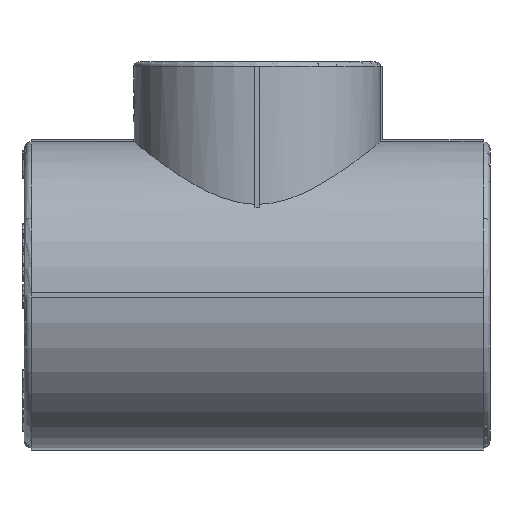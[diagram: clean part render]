
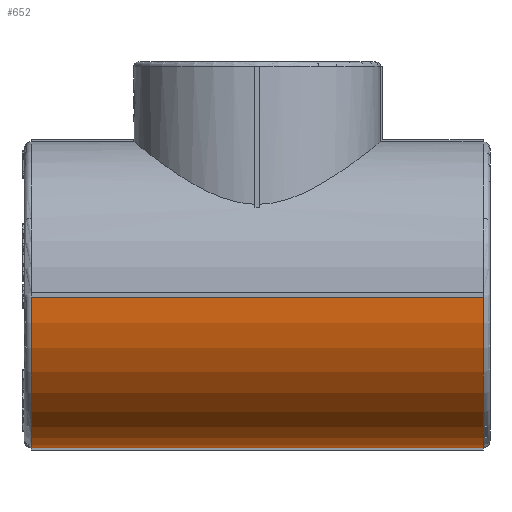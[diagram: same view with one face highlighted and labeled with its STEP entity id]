
A CAD part, left-side view. The second image highlights one B-rep face of the part: STEP entity #652.
In plain terms, the highlighted cylindrical face has radius 33.5 mm (diameter 67 mm), a partial arc.
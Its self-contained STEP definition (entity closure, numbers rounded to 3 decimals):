
#652=ADVANCED_FACE('',(#5077),#5079,.T.);
#5077=FACE_BOUND('',#5078,.T.);
#5078=EDGE_LOOP('',(#12898,#12899,#12900,#12901));
#5079=CYLINDRICAL_SURFACE('',#5080,33.5);
#5080=AXIS2_PLACEMENT_3D('',#5081,#5082,#5083);
#5081=CARTESIAN_POINT('',(0.,-51.,0.));
#5082=DIRECTION('',(0.,1.,0.));
#5083=DIRECTION('',(-1.,0.,0.));
#12898=ORIENTED_EDGE('',*,*,#18309,.F.);
#12899=ORIENTED_EDGE('',*,*,#18310,.T.);
#12900=ORIENTED_EDGE('',*,*,#18311,.F.);
#12901=ORIENTED_EDGE('',*,*,#18272,.F.);
#18272=EDGE_CURVE('',#22492,#22494,#22495,.T.);
#18309=EDGE_CURVE('',#22561,#22492,#22562,.T.);
#18310=EDGE_CURVE('',#22561,#22563,#22564,.T.);
#18311=EDGE_CURVE('',#22494,#22563,#22565,.F.);
#22492=VERTEX_POINT('',#31013);
#22494=VERTEX_POINT('',#31018);
#22495=CIRCLE('',#31019,33.5);
#22561=VERTEX_POINT('',#31437);
#22562=LINE('',#31438,#31439);
#22563=VERTEX_POINT('',#31441);
#22564=CIRCLE('',#31442,33.5);
#22565=LINE('',#31446,#31447);
#31013=CARTESIAN_POINT('',(-0.5,49.5,-33.496));
#31018=CARTESIAN_POINT('',(-33.496,49.5,-0.5));
#31019=AXIS2_PLACEMENT_3D('',#31020,#31021,#31022);
#31020=CARTESIAN_POINT('',(0.,49.5,0.));
#31021=DIRECTION('',(0.,1.,0.));
#31022=DIRECTION('',(-0.015,0.,-1.));
#31437=CARTESIAN_POINT('',(-0.5,-49.5,-33.496));
#31438=CARTESIAN_POINT('',(-0.5,-49.5,-33.496));
#31439=VECTOR('',#31440,1.);
#31440=DIRECTION('',(0.,1.,0.));
#31441=CARTESIAN_POINT('',(-33.496,-49.5,-0.5));
#31442=AXIS2_PLACEMENT_3D('',#31443,#31444,#31445);
#31443=CARTESIAN_POINT('',(0.,-49.5,0.));
#31444=DIRECTION('',(0.,1.,0.));
#31445=DIRECTION('',(-0.015,0.,-1.));
#31446=CARTESIAN_POINT('',(-33.496,-49.5,-0.5));
#31447=VECTOR('',#31448,1.);
#31448=DIRECTION('',(0.,1.,0.));
